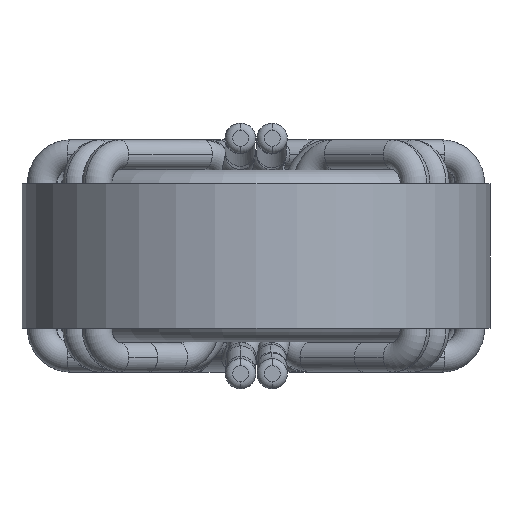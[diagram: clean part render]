
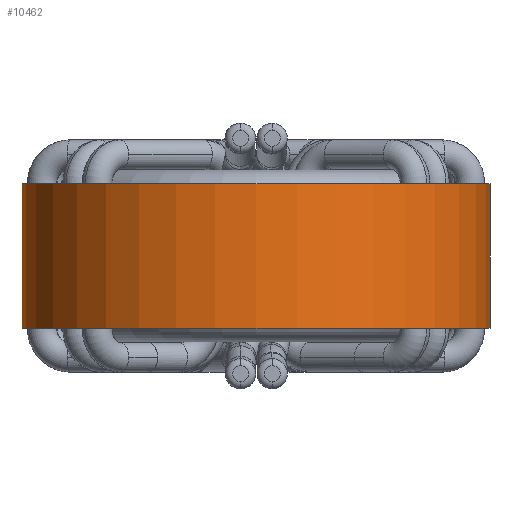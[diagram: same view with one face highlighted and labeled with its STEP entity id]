
A CAD part, front view. The second image highlights one B-rep face of the part: STEP entity #10462.
In plain terms, the highlighted cylindrical face has radius 16.2 mm (diameter 32.4 mm), a partial arc.
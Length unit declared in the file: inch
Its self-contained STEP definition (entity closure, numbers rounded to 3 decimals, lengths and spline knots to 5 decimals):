
#79 = AXIS2_PLACEMENT_3D ( 'NONE', #1003, #25118, #13072 ) ;
#368 = CYLINDRICAL_SURFACE ( 'NONE', #79, 0.6378 ) ;
#1003 = CARTESIAN_POINT ( 'NONE',  ( 0., 0., 0.19685 ) ) ;
#2300 = DIRECTION ( 'NONE',  ( 1., 0., 0. ) ) ;
#3002 = ORIENTED_EDGE ( 'NONE', *, *, #6415, .T. ) ;
#3698 = AXIS2_PLACEMENT_3D ( 'NONE', #4909, #15119, #12999 ) ;
#4125 = CARTESIAN_POINT ( 'NONE',  ( 0., 0., -0.19685 ) ) ;
#4570 = VERTEX_POINT ( 'NONE', #23873 ) ;
#4661 = EDGE_CURVE ( 'NONE', #13274, #25052, #6827, .T. ) ;
#4909 = CARTESIAN_POINT ( 'NONE',  ( 0., 0., 0.19685 ) ) ;
#5329 = AXIS2_PLACEMENT_3D ( 'NONE', #4125, #16185, #2300 ) ;
#5535 = CIRCLE ( 'NONE', #3698, 0.6378 ) ;
#6415 = EDGE_CURVE ( 'NONE', #4570, #13274, #24965, .T. ) ;
#6676 = FACE_OUTER_BOUND ( 'NONE', #10479, .T. ) ;
#6827 = CIRCLE ( 'NONE', #5329, 0.6378 ) ;
#10157 = DIRECTION ( 'NONE',  ( 0., 0., -1. ) ) ;
#10462 = ADVANCED_FACE ( 'NONE', ( #6676 ), #368, .T. ) ;
#10479 = EDGE_LOOP ( 'NONE', ( #20910, #17570, #3002, #19368 ) ) ;
#10638 = CARTESIAN_POINT ( 'NONE',  ( 0.6378, 0., 0.19685 ) ) ;
#11791 = CARTESIAN_POINT ( 'NONE',  ( -0.6378, 0., -0.19685 ) ) ;
#12258 = CARTESIAN_POINT ( 'NONE',  ( -0.6378, 0., 0.19685 ) ) ;
#12398 = CARTESIAN_POINT ( 'NONE',  ( 0.6378, 0., -0.19685 ) ) ;
#12770 = DIRECTION ( 'NONE',  ( 0., 0., -1. ) ) ;
#12999 = DIRECTION ( 'NONE',  ( 1., 0., 0. ) ) ;
#13004 = VECTOR ( 'NONE', #10157, 39.37008 ) ;
#13072 = DIRECTION ( 'NONE',  ( -1., 0., 0. ) ) ;
#13274 = VERTEX_POINT ( 'NONE', #11791 ) ;
#14172 = VECTOR ( 'NONE', #12770, 39.37008 ) ;
#14541 = EDGE_CURVE ( 'NONE', #14630, #25052, #14779, .T. ) ;
#14630 = VERTEX_POINT ( 'NONE', #17165 ) ;
#14779 = LINE ( 'NONE', #10638, #14172 ) ;
#15119 = DIRECTION ( 'NONE',  ( 0., 0., 1. ) ) ;
#16185 = DIRECTION ( 'NONE',  ( 0., 0., 1. ) ) ;
#17165 = CARTESIAN_POINT ( 'NONE',  ( 0.6378, 0., 0.19685 ) ) ;
#17570 = ORIENTED_EDGE ( 'NONE', *, *, #22139, .F. ) ;
#19368 = ORIENTED_EDGE ( 'NONE', *, *, #4661, .T. ) ;
#20910 = ORIENTED_EDGE ( 'NONE', *, *, #14541, .F. ) ;
#22139 = EDGE_CURVE ( 'NONE', #4570, #14630, #5535, .T. ) ;
#23873 = CARTESIAN_POINT ( 'NONE',  ( -0.6378, 0., 0.19685 ) ) ;
#24965 = LINE ( 'NONE', #12258, #13004 ) ;
#25052 = VERTEX_POINT ( 'NONE', #12398 ) ;
#25118 = DIRECTION ( 'NONE',  ( 0., 0., -1. ) ) ;
